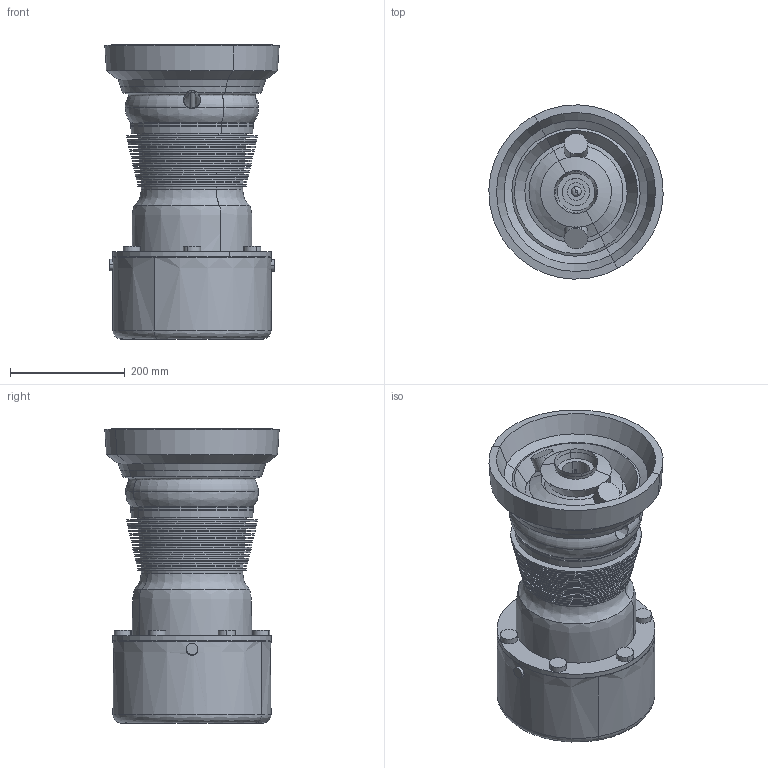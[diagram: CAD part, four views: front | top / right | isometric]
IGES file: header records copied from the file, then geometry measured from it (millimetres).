
Start section: START RECORD GO HERE.
Global section: file name: IC ENGINE.igs; native system: IBM CATIA IGES - CATIA Version 5 Release 19 ; preprocessor: CATIA Version 5 Release 19 ; author: ABHIJEET; organization: ABHIJEET-PC; date: 20111023.123822; units: millimetre
Bounding box: 304.08 x 304.08 x 513.26 mm (x, y, z)
Surface area: 1495169.2 mm2 (no closed solid volume)
Topology: 0 solids, 0 shells, 515 faces, 2294 edges, 2284 vertices
Faces by surface type: revolution 352, plane 157, bspline 4, extrusion 2
